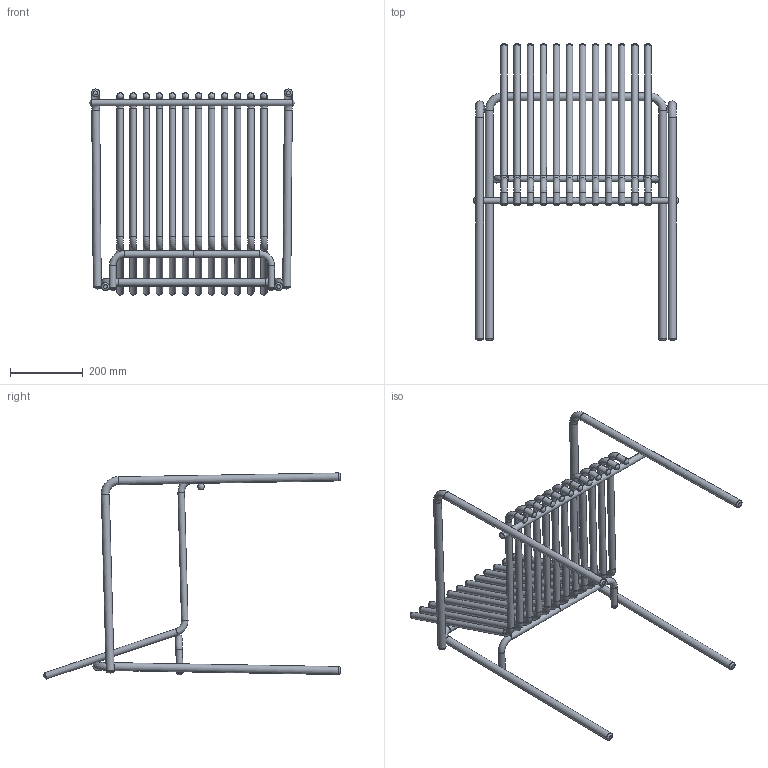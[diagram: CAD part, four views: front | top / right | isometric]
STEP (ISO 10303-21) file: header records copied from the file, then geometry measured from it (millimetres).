
FILE_DESCRIPTION(('STEP AP203'),'1');
FILE_NAME('20211108_Sedia AMALFI_Braccioli.stp','2022-03-16T12:42:38',(' '),(' '),'Spatial InterOp 3D',' ',' ');
FILE_SCHEMA(('CONFIG_CONTROL_DESIGN'));
Length unit declared in the file: millimetre
Products named in the file (52): 20211108_Sedia AMALFI_Braccioli; 20211108_Sedia AMALFI_Braccioli 50; 20211108_Sedia AMALFI_Braccioli 49; 20211108_Sedia AMALFI_Braccioli 48; 20211108_Sedia AMALFI_Braccioli 47; 20211108_Sedia AMALFI_Braccioli 46; 20211108_Sedia AMALFI_Braccioli 45; 20211108_Sedia AMALFI_Braccioli 44; 20211108_Sedia AMALFI_Braccioli 43; 20211108_Sedia AMALFI_Braccioli 42; 20211108_Sedia AMALFI_Braccioli 41; 20211108_Sedia AMALFI_Braccioli 40; 20211108_Sedia AMALFI_Braccioli 39; 20211108_Sedia AMALFI_Braccioli 38; 20211108_Sedia AMALFI_Braccioli 37; 20211108_Sedia AMALFI_Braccioli 36; 20211108_Sedia AMALFI_Braccioli 35; 20211108_Sedia AMALFI_Braccioli 34; 20211108_Sedia AMALFI_Braccioli 33; 20211108_Sedia AMALFI_Braccioli 32; 20211108_Sedia AMALFI_Braccioli 31; 20211108_Sedia AMALFI_Braccioli 30; 20211108_Sedia AMALFI_Braccioli 29; 20211108_Sedia AMALFI_Braccioli 28; 20211108_Sedia AMALFI_Braccioli 27; 20211108_Sedia AMALFI_Braccioli 26; 20211108_Sedia AMALFI_Braccioli 25; 20211108_Sedia AMALFI_Braccioli 24; 20211108_Sedia AMALFI_Braccioli 23; 20211108_Sedia AMALFI_Braccioli 22; 20211108_Sedia AMALFI_Braccioli 21; 20211108_Sedia AMALFI_Braccioli 20; 20211108_Sedia AMALFI_Braccioli 19; 20211108_Sedia AMALFI_Braccioli 18; 20211108_Sedia AMALFI_Braccioli 17; 20211108_Sedia AMALFI_Braccioli 16; 20211108_Sedia AMALFI_Braccioli 15; 20211108_Sedia AMALFI_Braccioli 14; 20211108_Sedia AMALFI_Braccioli 13; 20211108_Sedia AMALFI_Braccioli 12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
Assembly tree (51 placements, depth 2):
  20211108_Sedia AMALFI_Braccioli
    20211108_Sedia AMALFI_Braccioli 50
    20211108_Sedia AMALFI_Braccioli 49
    20211108_Sedia AMALFI_Braccioli 48
    20211108_Sedia AMALFI_Braccioli 47
    20211108_Sedia AMALFI_Braccioli 46
    20211108_Sedia AMALFI_Braccioli 45
    20211108_Sedia AMALFI_Braccioli 44
    20211108_Sedia AMALFI_Braccioli 43
    20211108_Sedia AMALFI_Braccioli 42
    20211108_Sedia AMALFI_Braccioli 41
    20211108_Sedia AMALFI_Braccioli 40
    20211108_Sedia AMALFI_Braccioli 39
    20211108_Sedia AMALFI_Braccioli 38
    20211108_Sedia AMALFI_Braccioli 37
    20211108_Sedia AMALFI_Braccioli 36
    20211108_Sedia AMALFI_Braccioli 35
    20211108_Sedia AMALFI_Braccioli 34
    20211108_Sedia AMALFI_Braccioli 33
    20211108_Sedia AMALFI_Braccioli 32
    20211108_Sedia AMALFI_Braccioli 31
    20211108_Sedia AMALFI_Braccioli 30
    20211108_Sedia AMALFI_Braccioli 29
    20211108_Sedia AMALFI_Braccioli 28
    20211108_Sedia AMALFI_Braccioli 27
    20211108_Sedia AMALFI_Braccioli 26
    20211108_Sedia AMALFI_Braccioli 25
    20211108_Sedia AMALFI_Braccioli 24
    20211108_Sedia AMALFI_Braccioli 23
    20211108_Sedia AMALFI_Braccioli 22
    20211108_Sedia AMALFI_Braccioli 21
    20211108_Sedia AMALFI_Braccioli 20
    20211108_Sedia AMALFI_Braccioli 19
    20211108_Sedia AMALFI_Braccioli 18
    20211108_Sedia AMALFI_Braccioli 17
    20211108_Sedia AMALFI_Braccioli 16
    20211108_Sedia AMALFI_Braccioli 15
    20211108_Sedia AMALFI_Braccioli 14
    20211108_Sedia AMALFI_Braccioli 13
    20211108_Sedia AMALFI_Braccioli 12
    20211108_Sedia AMALFI_Braccioli 11
    20211108_Sedia AMALFI_Braccioli 10
    20211108_Sedia AMALFI_Braccioli 9
    20211108_Sedia AMALFI_Braccioli 8
    20211108_Sedia AMALFI_Braccioli 7
    20211108_Sedia AMALFI_Braccioli 6
    20211108_Sedia AMALFI_Braccioli 5
    20211108_Sedia AMALFI_Braccioli 4
    20211108_Sedia AMALFI_Braccioli 3
    20211108_Sedia AMALFI_Braccioli 2
    20211108_Sedia AMALFI_Braccioli 1
    20211108_Sedia AMALFI_Braccioli 0
Bounding box: 565.87 x 818.26 x 568.13 mm (x, y, z)
Volume: 1241718 mm3; surface area: 1749178.1 mm2
Topology: 51 solids, 51 shells, 330 faces, 630 edges, 398 vertices
Faces by surface type: cylinder 134, torus 94, plane 72, sphere 30
Full cylindrical faces by diameter (mm): 15.2 x43, 18 x71, 19.2 x9, 22 x11
Entity records: 9868 total; most frequent: DIRECTION 1356, CARTESIAN_POINT 974, AXIS2_PLACEMENT_3D 678, EDGE_LOOP 592, ORIENTED_EDGE 592, FACE_OUTER_BOUND 558, ADVANCED_FACE 330, EDGE_CURVE 296
